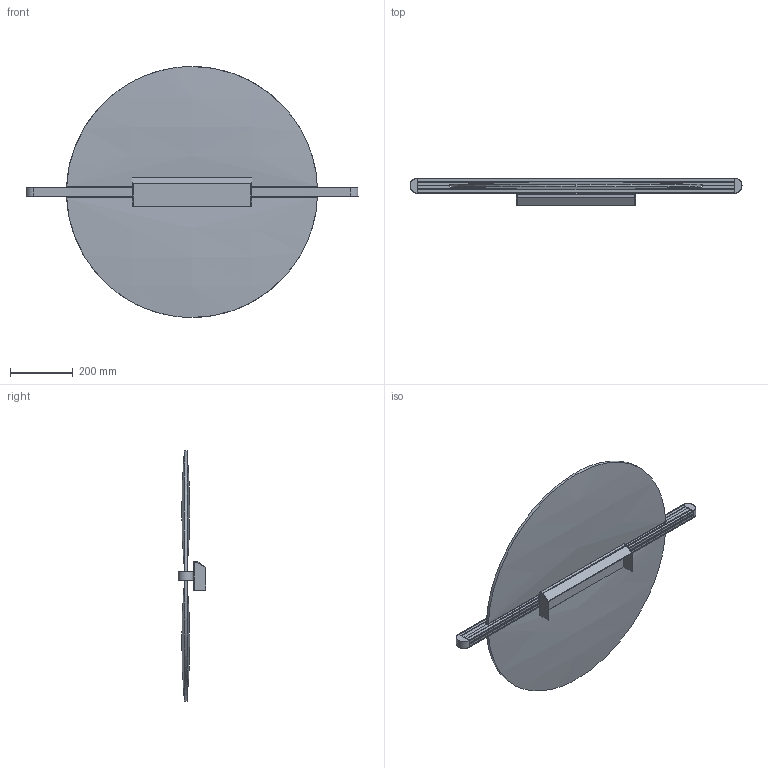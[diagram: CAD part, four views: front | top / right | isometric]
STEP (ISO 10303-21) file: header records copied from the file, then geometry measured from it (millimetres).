
FILE_DESCRIPTION(/* description */ (''),/* implementation_level */ '2;1');
FILE_NAME(/* name */ '1906-3~1',/* time_stamp */ '2021-06-09T15:27:20+02:00',/* author */ (''),/* organization */ (''),/* preprocessor_version */ 'ST-DEVELOPER v16.5',/* originating_system */ '',/* authorisation */ '');
FILE_SCHEMA (('CONFIG_CONTROL_DESIGN'));
Length unit declared in the file: millimetre
Products named in the file (3): Document; PLA.005070; MET.005548
Assembly tree (5 placements, depth 2):
  Document
    PLA.005070  x4
    MET.005548
Bounding box: 1058.44 x 88.5 x 800 mm (x, y, z)
Volume: 8126465.1 mm3; surface area: 1677446.2 mm2
Topology: 12 solids, 14 shells, 534 faces, 1540 edges, 1019 vertices
Faces by surface type: plane 278, cylinder 222, bspline 34
Entity records: 17539 total; most frequent: CARTESIAN_POINT 8395, ORIENTED_EDGE 2744, EDGE_CURVE 1388, VERTEX_POINT 923, B_SPLINE_CURVE_WITH_KNOTS 911, EDGE_LOOP 501, ADVANCED_FACE 480, FACE_OUTER_BOUND 480
